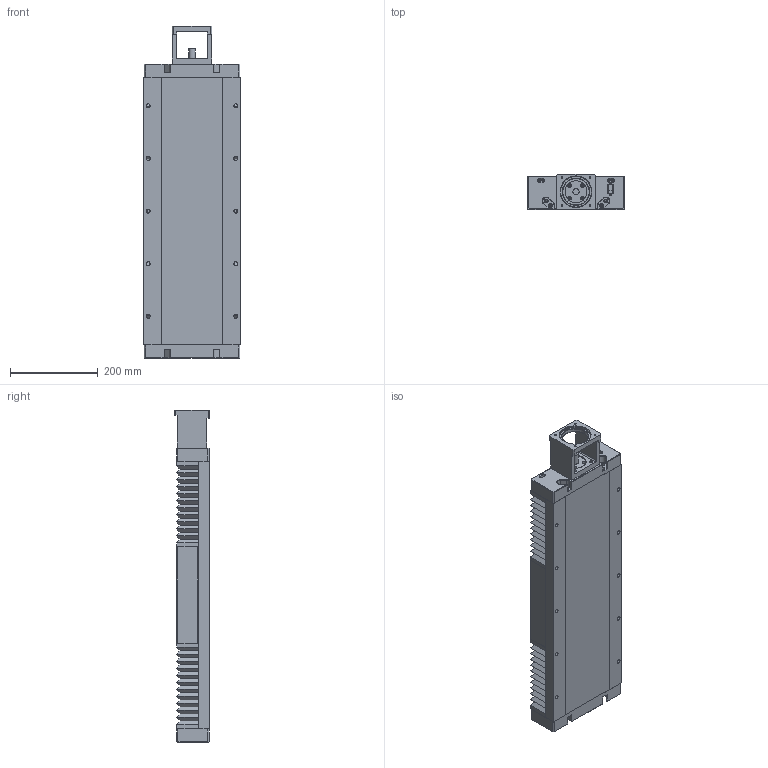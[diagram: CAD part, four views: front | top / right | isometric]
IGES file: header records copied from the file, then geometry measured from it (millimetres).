
Start section: SolidWorks IGES file using analytic representation for surfaces
Bounding box: 220 x 80 x 757 mm (x, y, z)
Surface area: 919717 mm2 (no closed solid volume)
Topology: 0 solids, 0 shells, 951 faces, 13602 edges, 13518 vertices
Faces by surface type: revolution 552, bspline 399
